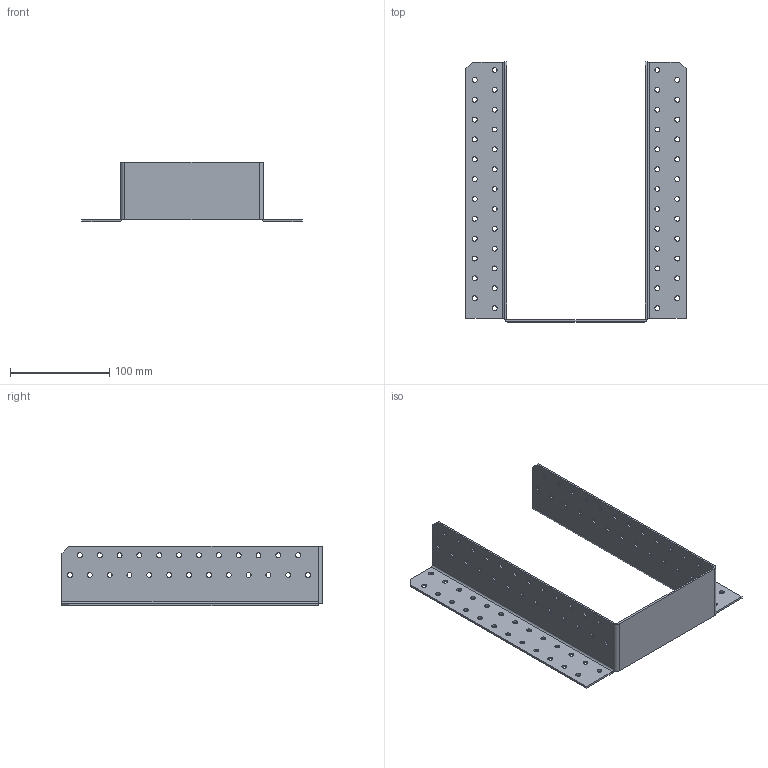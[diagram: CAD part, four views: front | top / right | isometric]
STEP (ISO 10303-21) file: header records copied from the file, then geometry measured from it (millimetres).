
FILE_DESCRIPTION (( 'STEP AP203' ), '1' );
FILE_NAME ('405492.STEP', '2021-04-17T16:53:26', ( '' ), ( '' ), 'SwSTEP 2.0', 'SolidWorks 2013', '' );
FILE_SCHEMA (( 'CONFIG_CONTROL_DESIGN' ));
Length unit declared in the file: millimetre
Products named in the file (1): 405492
Bounding box: 222 x 262 x 60 mm (x, y, z)
Volume: 113585.5 mm3; surface area: 119891 mm2
Topology: 1 solids, 1 shells, 244 faces, 696 edges, 454 vertices
Faces by surface type: cylinder 208, plane 36
Entity records: 8635 total; most frequent: DIRECTION 1604, CARTESIAN_POINT 1395, ORIENTED_EDGE 1392, EDGE_CURVE 696, AXIS2_PLACEMENT_3D 663, VERTEX_POINT 454, EDGE_LOOP 444, CIRCLE 418
